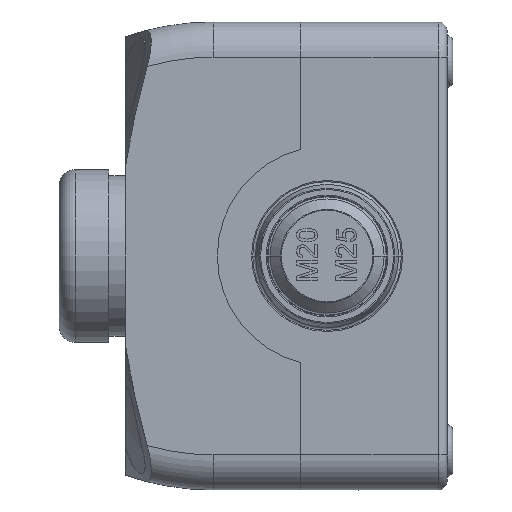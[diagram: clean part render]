
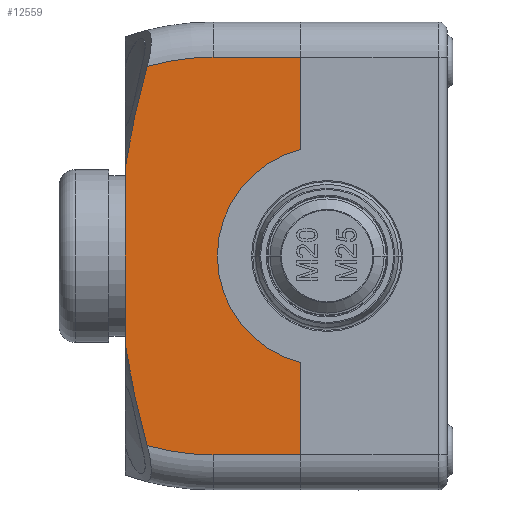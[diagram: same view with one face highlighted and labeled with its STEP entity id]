
A CAD part, left-side view. The second image highlights one B-rep face of the part: STEP entity #12559.
In plain terms, the highlighted planar face has unit normal (-1, 0, 0) as drawn and (0, 0, -1) by its records, which use the part's own axes.
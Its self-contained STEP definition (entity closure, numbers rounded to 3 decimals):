
#1676 = VERTEX_POINT ( 'NONE', #26635 ) ;
#1758 = VERTEX_POINT ( 'NONE', #26788 ) ;
#1781 = VERTEX_POINT ( 'NONE', #26828 ) ;
#1831 = VERTEX_POINT ( 'NONE', #26925 ) ;
#1832 = VERTEX_POINT ( 'NONE', #26927 ) ;
#1835 = VERTEX_POINT ( 'NONE', #26933 ) ;
#1840 = VERTEX_POINT ( 'NONE', #26942 ) ;
#1854 = VERTEX_POINT ( 'NONE', #26970 ) ;
#4745 = VERTEX_POINT ( 'NONE', #27961 ) ;
#5293 = VECTOR ( 'NONE', #19386, 1000. ) ;
#5303 = VECTOR ( 'NONE', #19398, 1000. ) ;
#5453 = CIRCLE ( 'NONE', #5486, 40.25 ) ;
#5473 = CIRCLE ( 'NONE', #5479, 18.75 ) ;
#5477 = VECTOR ( 'NONE', #19702, 1000. ) ;
#5479 = AXIS2_PLACEMENT_3D ( 'NONE', #19699, #19700, #19701 ) ;
#5481 = CIRCLE ( 'NONE', #5485, 40.25 ) ;
#5483 = VECTOR ( 'NONE', #19723, 1000. ) ;
#5485 = AXIS2_PLACEMENT_3D ( 'NONE', #19705, #19706, #19707 ) ;
#5486 = AXIS2_PLACEMENT_3D ( 'NONE', #19720, #19721, #19722 ) ;
#6181 = AXIS2_PLACEMENT_3D ( 'NONE', #33836, #33843, #33844 ) ;
#7744 = EDGE_CURVE ( 'NONE', #1840, #1854, #13760, .T. ) ;
#7774 = EDGE_CURVE ( 'NONE', #1831, #1832, #13858, .T. ) ;
#7778 = EDGE_CURVE ( 'NONE', #1835, #4745, #19395, .T. ) ;
#7847 = EDGE_CURVE ( 'NONE', #4745, #1832, #5473, .T. ) ;
#7848 = EDGE_CURVE ( 'NONE', #1781, #1831, #19692, .T. ) ;
#7849 = EDGE_CURVE ( 'NONE', #10839, #1781, #5481, .T. ) ;
#7850 = EDGE_CURVE ( 'NONE', #1854, #10839, #15183, .T. ) ;
#7851 = EDGE_CURVE ( 'NONE', #1840, #1676, #15184, .T. ) ;
#7852 = EDGE_CURVE ( 'NONE', #1676, #1758, #5453, .T. ) ;
#7853 = EDGE_CURVE ( 'NONE', #1758, #1835, #19713, .T. ) ;
#10839 = VERTEX_POINT ( 'NONE', #33227 ) ;
#11020 = EDGE_LOOP ( 'NONE', ( #29092, #29094, #29096, #29098, #29100, #29102, #29104, #29105, #29107, #29109 ) ) ;
#12559 = ADVANCED_FACE ( 'NONE', ( #33839 ), #33840, .T. ) ;
#13760 = LINE ( 'NONE', #13761, #15145 ) ;
#13761 = CARTESIAN_POINT ( 'NONE',  ( 0., 15., -36. ) ) ;
#13768 = DIRECTION ( 'NONE',  ( -1., 0., 0. ) ) ;
#13845 = CARTESIAN_POINT ( 'NONE',  ( 0., -15., -36. ) ) ;
#13858 = LINE ( 'NONE', #13845, #5293 ) ;
#15145 = VECTOR ( 'NONE', #13768, 1000. ) ;
#15183 = B_SPLINE_CURVE_WITH_KNOTS ( 'NONE', 3,
 ( #19703, #19704, #19708, #19709, #19710, #19711 ),
 .UNSPECIFIED., .F., .F.,
 ( 4, 2, 4 ),
 ( 0.04, 0.049, 0.058 ),
 .UNSPECIFIED. ) ;
#15184 = B_SPLINE_CURVE_WITH_KNOTS ( 'NONE', 3,
 ( #19697, #19698, #19714, #19715, #19716, #19717 ),
 .UNSPECIFIED., .F., .F.,
 ( 4, 2, 4 ),
 ( 0.04, 0.049, 0.058 ),
 .UNSPECIFIED. ) ;
#19386 = DIRECTION ( 'NONE',  ( 1., 0., 0. ) ) ;
#19395 = LINE ( 'NONE', #19397, #5303 ) ;
#19397 = CARTESIAN_POINT ( 'NONE',  ( 0., -15., -36. ) ) ;
#19398 = DIRECTION ( 'NONE',  ( -1., 0., 0. ) ) ;
#19692 = LINE ( 'NONE', #19693, #5477 ) ;
#19693 = CARTESIAN_POINT ( 'NONE',  ( -34., -15., -36. ) ) ;
#19697 = CARTESIAN_POINT ( 'NONE',  ( 15.124, 15., -36. ) ) ;
#19698 = CARTESIAN_POINT ( 'NONE',  ( 18.056, 14.56, -36. ) ) ;
#19699 = CARTESIAN_POINT ( 'NONE',  ( 0., -19.5, -36. ) ) ;
#19700 = DIRECTION ( 'NONE',  ( 0., 0., 1. ) ) ;
#19701 = DIRECTION ( 'NONE',  ( 1., 0., 0. ) ) ;
#19702 = DIRECTION ( 'NONE',  ( 0., -1., 0. ) ) ;
#19703 = CARTESIAN_POINT ( 'NONE',  ( -15.124, 15., -36. ) ) ;
#19704 = CARTESIAN_POINT ( 'NONE',  ( -18.056, 14.56, -36. ) ) ;
#19705 = CARTESIAN_POINT ( 'NONE',  ( 6.25, 0., -36. ) ) ;
#19706 = DIRECTION ( 'NONE',  ( 0., 0., 1. ) ) ;
#19707 = DIRECTION ( 'NONE',  ( 1., 0., 0. ) ) ;
#19708 = CARTESIAN_POINT ( 'NONE',  ( -20.957, 14.01, -36. ) ) ;
#19709 = CARTESIAN_POINT ( 'NONE',  ( -26.709, 12.744, -36. ) ) ;
#19710 = CARTESIAN_POINT ( 'NONE',  ( -29.561, 12.027, -36. ) ) ;
#19711 = CARTESIAN_POINT ( 'NONE',  ( -32.396, 11.249, -36. ) ) ;
#19712 = CARTESIAN_POINT ( 'NONE',  ( 34., -15., -36. ) ) ;
#19713 = LINE ( 'NONE', #19712, #5483 ) ;
#19714 = CARTESIAN_POINT ( 'NONE',  ( 20.957, 14.01, -36. ) ) ;
#19715 = CARTESIAN_POINT ( 'NONE',  ( 26.709, 12.744, -36. ) ) ;
#19716 = CARTESIAN_POINT ( 'NONE',  ( 29.561, 12.027, -36. ) ) ;
#19717 = CARTESIAN_POINT ( 'NONE',  ( 32.396, 11.249, -36. ) ) ;
#19720 = CARTESIAN_POINT ( 'NONE',  ( -6.25, 0., -36. ) ) ;
#19721 = DIRECTION ( 'NONE',  ( 0., 0., -1. ) ) ;
#19722 = DIRECTION ( 'NONE',  ( -1., 0., 0. ) ) ;
#19723 = DIRECTION ( 'NONE',  ( 0., -1., 0. ) ) ;
#26635 = CARTESIAN_POINT ( 'NONE',  ( 32.396, 11.249, -36. ) ) ;
#26788 = CARTESIAN_POINT ( 'NONE',  ( 34., 0., -36. ) ) ;
#26828 = CARTESIAN_POINT ( 'NONE',  ( -34., 0., -36. ) ) ;
#26925 = CARTESIAN_POINT ( 'NONE',  ( -34., -15., -36. ) ) ;
#26927 = CARTESIAN_POINT ( 'NONE',  ( -18.202, -15., -36. ) ) ;
#26933 = CARTESIAN_POINT ( 'NONE',  ( 34., -15., -36. ) ) ;
#26942 = CARTESIAN_POINT ( 'NONE',  ( 15.124, 15., -36. ) ) ;
#26970 = CARTESIAN_POINT ( 'NONE',  ( -15.124, 15., -36. ) ) ;
#27961 = CARTESIAN_POINT ( 'NONE',  ( 18.202, -15., -36. ) ) ;
#29092 = ORIENTED_EDGE ( 'NONE', *, *, #7847, .T. ) ;
#29094 = ORIENTED_EDGE ( 'NONE', *, *, #7774, .F. ) ;
#29096 = ORIENTED_EDGE ( 'NONE', *, *, #7848, .F. ) ;
#29098 = ORIENTED_EDGE ( 'NONE', *, *, #7849, .F. ) ;
#29100 = ORIENTED_EDGE ( 'NONE', *, *, #7850, .F. ) ;
#29102 = ORIENTED_EDGE ( 'NONE', *, *, #7744, .F. ) ;
#29104 = ORIENTED_EDGE ( 'NONE', *, *, #7851, .T. ) ;
#29105 = ORIENTED_EDGE ( 'NONE', *, *, #7852, .T. ) ;
#29107 = ORIENTED_EDGE ( 'NONE', *, *, #7853, .T. ) ;
#29109 = ORIENTED_EDGE ( 'NONE', *, *, #7778, .T. ) ;
#33227 = CARTESIAN_POINT ( 'NONE',  ( -32.396, 11.249, -36. ) ) ;
#33836 = CARTESIAN_POINT ( 'NONE',  ( 6.25, 0., -36. ) ) ;
#33839 = FACE_OUTER_BOUND ( 'NONE', #11020, .T. ) ;
#33840 = PLANE ( 'NONE',  #6181 ) ;
#33843 = DIRECTION ( 'NONE',  ( 0., 0., -1. ) ) ;
#33844 = DIRECTION ( 'NONE',  ( 1., 0., 0. ) ) ;
